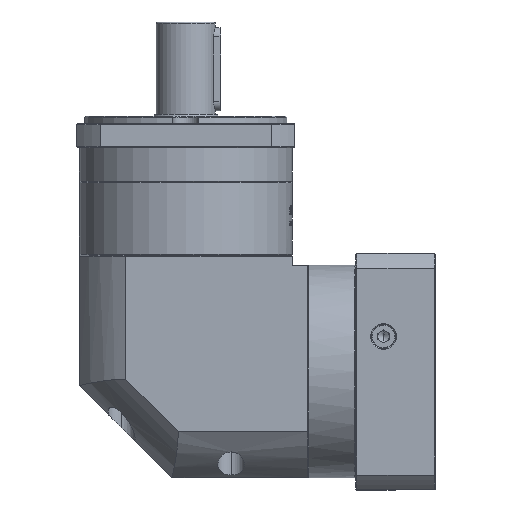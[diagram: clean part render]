
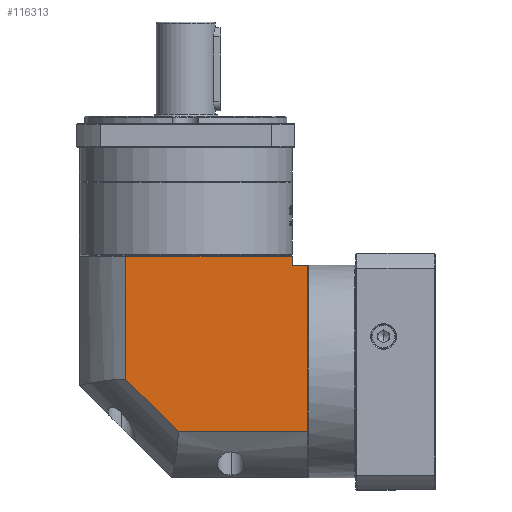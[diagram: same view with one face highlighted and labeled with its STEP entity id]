
A CAD part, left-side view. The second image highlights one B-rep face of the part: STEP entity #116313.
In plain terms, the highlighted planar face has unit normal (-1, 0, 0).
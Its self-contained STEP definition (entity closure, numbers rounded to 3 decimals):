
#384 = DIRECTION ( 'NONE',  ( 0., 0., 1. ) ) ;
#2414 = CARTESIAN_POINT ( 'NONE',  ( -271.005, -117.655, 60.624 ) ) ;
#4664 = DIRECTION ( 'NONE',  ( 0., -1., 0. ) ) ;
#7845 = EDGE_CURVE ( 'NONE', #68553, #83381, #39432, .T. ) ;
#9545 = DIRECTION ( 'NONE',  ( 0., 0., -1. ) ) ;
#12982 = VECTOR ( 'NONE', #29911, 1000. ) ;
#18666 = VECTOR ( 'NONE', #131464, 1000. ) ;
#19700 = LINE ( 'NONE', #77595, #32092 ) ;
#23225 = CARTESIAN_POINT ( 'NONE',  ( -271.005, -117.655, 60.624 ) ) ;
#27027 = VERTEX_POINT ( 'NONE', #153920 ) ;
#29911 = DIRECTION ( 'NONE',  ( 0., 0.707, 0.707 ) ) ;
#32092 = VECTOR ( 'NONE', #169366, 1000. ) ;
#32615 = VERTEX_POINT ( 'NONE', #94168 ) ;
#35988 = EDGE_CURVE ( 'NONE', #93739, #148892, #162657, .T. ) ;
#36416 = DIRECTION ( 'NONE',  ( 0., 1., 0. ) ) ;
#39432 = LINE ( 'NONE', #156054, #123341 ) ;
#45356 = LINE ( 'NONE', #88631, #104824 ) ;
#46773 = ORIENTED_EDGE ( 'NONE', *, *, #138835, .F. ) ;
#50163 = CARTESIAN_POINT ( 'NONE',  ( -271.005, -2.655, 72.124 ) ) ;
#60521 = ORIENTED_EDGE ( 'NONE', *, *, #161695, .F. ) ;
#66291 = VECTOR ( 'NONE', #384, 1000. ) ;
#67020 = EDGE_CURVE ( 'NONE', #117032, #93739, #117233, .T. ) ;
#67891 = ORIENTED_EDGE ( 'NONE', *, *, #7845, .F. ) ;
#68553 = VERTEX_POINT ( 'NONE', #81638 ) ;
#69064 = VECTOR ( 'NONE', #4664, 1000. ) ;
#72649 = CARTESIAN_POINT ( 'NONE',  ( -271.005, -56.093, -29.276 ) ) ;
#75049 = EDGE_CURVE ( 'NONE', #32615, #27027, #19700, .T. ) ;
#77595 = CARTESIAN_POINT ( 'NONE',  ( -271.005, -27.755, 72.124 ) ) ;
#80887 = CARTESIAN_POINT ( 'NONE',  ( -271.005, -56.093, -29.276 ) ) ;
#81638 = CARTESIAN_POINT ( 'NONE',  ( -271.005, -126.055, -29.276 ) ) ;
#82642 = LINE ( 'NONE', #80887, #12982 ) ;
#83381 = VERTEX_POINT ( 'NONE', #72649 ) ;
#83771 = PLANE ( 'NONE',  #114120 ) ;
#88631 = CARTESIAN_POINT ( 'NONE',  ( -271.005, -126.055, 72.124 ) ) ;
#92039 = CARTESIAN_POINT ( 'NONE',  ( -271.005, -117.655, -54.376 ) ) ;
#93739 = VERTEX_POINT ( 'NONE', #23225 ) ;
#94168 = CARTESIAN_POINT ( 'NONE',  ( -271.005, -27.755, -0.938 ) ) ;
#94538 = ORIENTED_EDGE ( 'NONE', *, *, #106950, .F. ) ;
#104824 = VECTOR ( 'NONE', #9545, 1000. ) ;
#106950 = EDGE_CURVE ( 'NONE', #27027, #148892, #132591, .T. ) ;
#114120 = AXIS2_PLACEMENT_3D ( 'NONE', #50163, #168718, #36416 ) ;
#116313 = ADVANCED_FACE ( 'NONE', ( #139462 ), #83771, .F. ) ;
#117032 = VERTEX_POINT ( 'NONE', #134472 ) ;
#117233 = LINE ( 'NONE', #2414, #18666 ) ;
#120083 = DIRECTION ( 'NONE',  ( 0., 1., 0. ) ) ;
#121785 = ORIENTED_EDGE ( 'NONE', *, *, #35988, .T. ) ;
#123341 = VECTOR ( 'NONE', #120083, 1000. ) ;
#126729 = ORIENTED_EDGE ( 'NONE', *, *, #75049, .F. ) ;
#131464 = DIRECTION ( 'NONE',  ( 0., 1., 0. ) ) ;
#132591 = LINE ( 'NONE', #148592, #69064 ) ;
#134472 = CARTESIAN_POINT ( 'NONE',  ( -271.005, -126.055, 60.624 ) ) ;
#138835 = EDGE_CURVE ( 'NONE', #117032, #68553, #45356, .T. ) ;
#139462 = FACE_OUTER_BOUND ( 'NONE', #143435, .T. ) ;
#139511 = CARTESIAN_POINT ( 'NONE',  ( -271.005, -117.655, 65.624 ) ) ;
#143435 = EDGE_LOOP ( 'NONE', ( #126729, #60521, #67891, #46773, #156131, #121785, #94538 ) ) ;
#148592 = CARTESIAN_POINT ( 'NONE',  ( -271.005, -2.655, 65.624 ) ) ;
#148892 = VERTEX_POINT ( 'NONE', #139511 ) ;
#153920 = CARTESIAN_POINT ( 'NONE',  ( -271.005, -27.755, 65.624 ) ) ;
#156054 = CARTESIAN_POINT ( 'NONE',  ( -271.005, -2.655, -29.276 ) ) ;
#156131 = ORIENTED_EDGE ( 'NONE', *, *, #67020, .T. ) ;
#161695 = EDGE_CURVE ( 'NONE', #83381, #32615, #82642, .T. ) ;
#162657 = LINE ( 'NONE', #92039, #66291 ) ;
#168718 = DIRECTION ( 'NONE',  ( 1., 0., 0. ) ) ;
#169366 = DIRECTION ( 'NONE',  ( 0., 0., 1. ) ) ;
